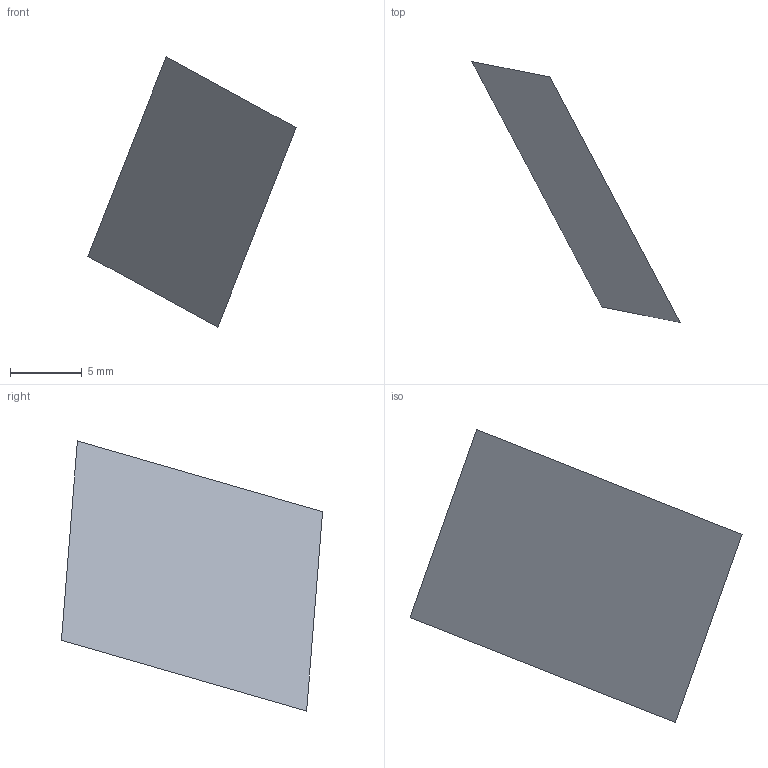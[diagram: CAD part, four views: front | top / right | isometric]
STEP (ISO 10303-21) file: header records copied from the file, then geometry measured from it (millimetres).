
FILE_DESCRIPTION(('FreeCAD Model'),'2;1');
FILE_NAME('Open CASCADE Shape Model','2026-09-10T22:36:21',('FreeCAD'),( 'FreeCAD'),'Open CASCADE STEP processor 7.8','FreeCAD','Unknown');
FILE_SCHEMA(('AUTOMOTIVE_DESIGN { 1 0 10303 214 1 1 1 1 }'));
Length unit declared in the file: millimetre
Products named in the file (1): Open CASCADE STEP translator 7.8 6
Bounding box: 14.55 x 18.24 x 18.86 mm (x, y, z)
Surface area: 300 mm2 (no closed solid volume)
Topology: 0 solids, 1 shells, 1 faces, 4 edges, 4 vertices
Faces by surface type: plane 1
Entity records: 58 total; most frequent: CARTESIAN_POINT 10, DIRECTION 8, ORIENTED_EDGE 4, EDGE_CURVE 4, VERTEX_POINT 4, LINE 4, VECTOR 4, AXIS2_PLACEMENT_3D 2
